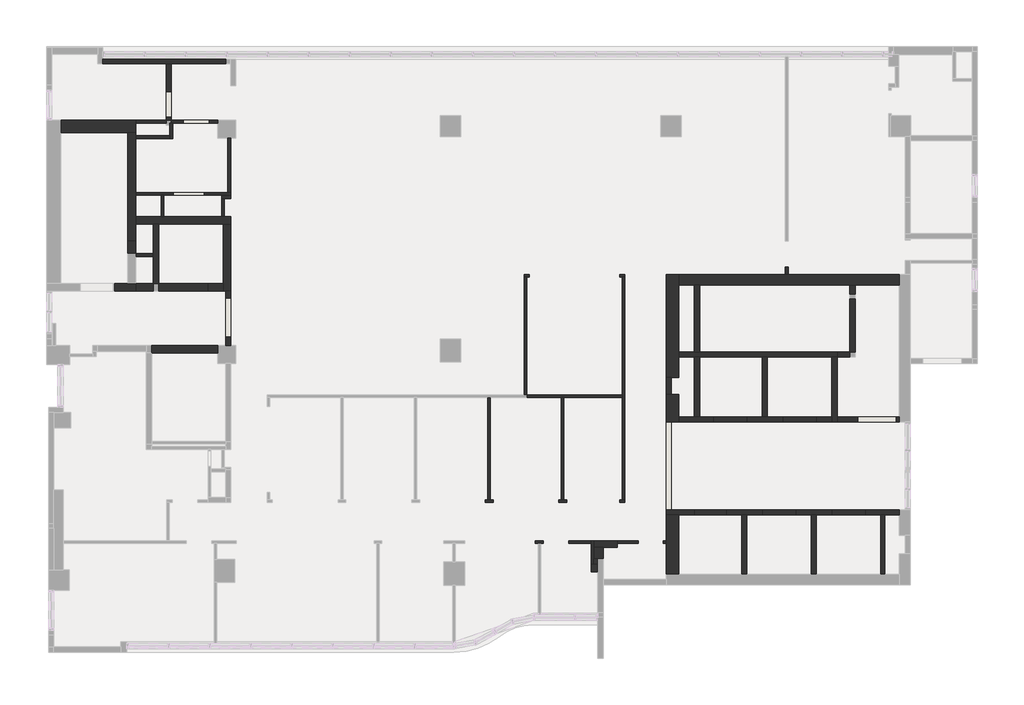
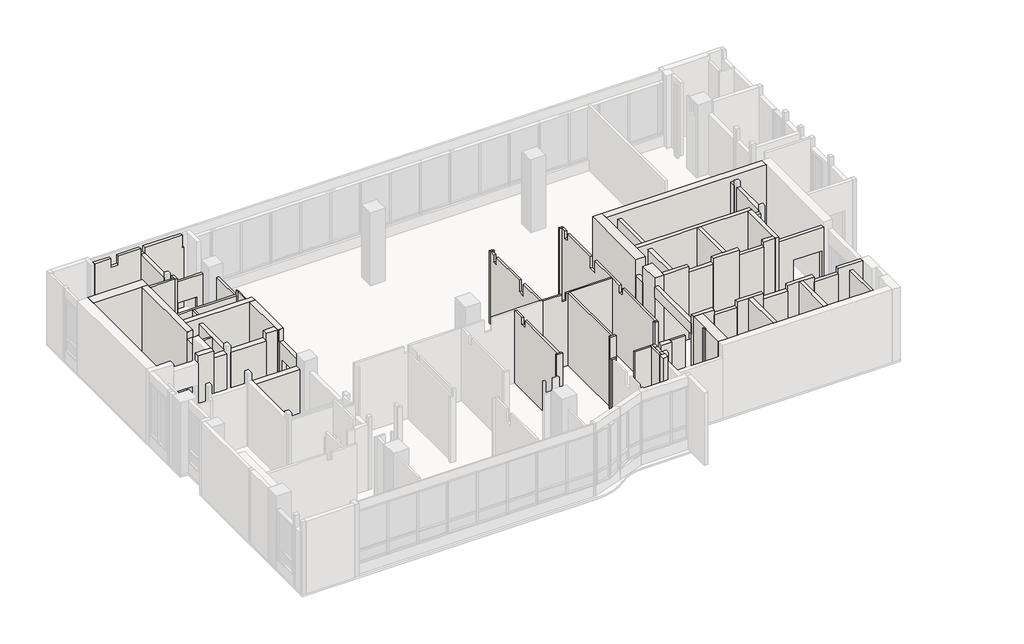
# One storey, part 3 of 5: 74 walls.
"""IFC4 building model written with IfcOpenShell, lengths in millimetres."""

from ifc_helpers import new_model, si_unit, frame, origin, place, context, project, spatial, polyline, outline, extrude, faceted_brep, element, save

model = new_model("IFC4")

# Units and contexts
model_context = context("Model", 3, world=origin())
ifc_project = project(units=[si_unit("LENGTHUNIT", "METRE", prefix="MILLI")], contexts=[model_context])

# Site, building, storey
site = spatial("IfcSite", under=ifc_project)
building = spatial("IfcBuilding", under=site)
storey = spatial("IfcBuildingStorey", under=building, Name="20F(S)", Elevation=-100.0)

# Walls
placement = place(None, origin())
element("IfcWall", 1, ObjectType="承重墙-500", at=placement, inside=storey, context=model_context, shape_type="Brep", body=[
    faceted_brep([(-139.9999991, 17139.9923452, -100.0), (2460.0000009, 17139.9923452, -100.0), (2760.0000009, 17139.9923452, -100.0), (2760.0000009, 17139.9923452, 4000.0), (2460.0000009, 17139.9923452, 4000.0), (-139.9999991, 17139.9923452, 4000.0), (-139.9999991, 17639.9923452, -100.0), (-139.9999991, 17639.9923452, 4000.0), (2760.0000009, 17639.9923452, 4000.0), (2760.0000009, 17639.9923452, -100.0)], [[[0, 1, 2, 3, 4, 5]], [[6, 7, 8, 9]], [[2, 1, 0, 6, 9]], [[5, 4, 3, 8, 7]], [[0, 5, 7, 6]], [[3, 2, 9, 8]]]),
])
element("IfcWall", 2, ObjectType="承重墙-300", at=placement, inside=storey, context=model_context, shape_type="Brep", body=[
    faceted_brep([(2460.0000009, 17139.9923452, -100.0), (2460.0000009, 12950.0000404, -100.0), (2460.0000009, 12950.0000404, 4000.0), (2460.0000009, 17139.9923452, 4000.0), (2760.0000009, 17139.9923452, -100.0), (2760.0000009, 17139.9923452, 4000.0), (2760.0000009, 13900.0000401, 4000.0), (2760.0000009, 13600.0000401, 4000.0), (2760.0000009, 12950.0000404, 4000.0), (2760.0000009, 12950.0000404, -100.0), (2760.0000009, 13600.0000401, -100.0), (2760.0000009, 13900.0000401, -100.0), (2760.0000009, 14719.99237, -100.0), (2760.0000009, 14819.99237, -100.0)], [[[0, 1, 2, 3]], [[4, 5, 6, 7, 8, 9, 10, 11, 12, 13]], [[1, 0, 4, 13, 12, 11, 10, 9]], [[2, 1, 9, 8]], [[3, 2, 8, 7, 6, 5]], [[0, 3, 5, 4]]]),
])
element("IfcWall", 3, ObjectType="承重墙-500", at=placement, inside=storey, context=model_context, shape_type="SweptSolid", body=[
    extrude(outline(polyline([(23820.0000001, 2319.99237), (23820.0000001, 19.9923316), (23320.0000001, 19.9923316), (23320.0000001, 2319.99237), (23820.0000001, 2319.99237)])), frame((0.0, 0.0, -100.0), z_axis=(0.0, 0.0, 1.0), x_axis=(1.0, 0.0, 0.0)), (0.0, 0.0, 1.0), 4100.0),
])
element("IfcWall", 4, ObjectType="承重墙-500", at=placement, inside=storey, context=model_context, shape_type="Brep", body=[
    faceted_brep([(23320.0000001, 11639.99237, -100.0), (23320.0000001, 7649.99237, -100.0), (23320.0000001, 7649.99237, 4000.0), (23320.0000001, 11639.99237, 4000.0), (23820.0000001, 11639.99237, -100.0), (23820.0000001, 11639.99237, 4000.0), (23820.0000001, 11239.99237, 4000.0), (23820.0000001, 8639.99237, 4000.0), (23820.0000001, 8439.99237, 4000.0), (23820.0000001, 7649.99237, 4000.0), (23820.0000001, 7649.99237, -100.0), (23820.0000001, 8439.99237, -100.0), (23820.0000001, 8639.99237, -100.0), (23820.0000001, 11239.99237, -100.0), (23520.0000001, 7649.99237, -100.0)], [[[0, 1, 2, 3]], [[4, 5, 6, 7, 8, 9, 10, 11, 12, 13]], [[1, 0, 4, 13, 12, 11, 10, 14]], [[2, 1, 14, 10, 9]], [[3, 2, 9, 8, 7, 6, 5]], [[0, 3, 5, 4]]]),
])
element("IfcWall", 5, ObjectType="承重墙-500", at=placement, inside=storey, context=model_context, shape_type="Brep", body=[
    faceted_brep([(23320.0000001, 6999.99237, -100.0), (23320.0000001, 5919.99237, -100.0), (23320.0000001, 5919.99237, 0.0), (23320.0000001, 5919.99237, 2900.0), (23320.0000001, 5919.99237, 3500.0), (23320.0000001, 5919.99237, 4000.0), (23320.0000001, 6999.99237, 4000.0), (23820.0000001, 6999.99237, -100.0), (23820.0000001, 6999.99237, 4000.0), (23820.0000001, 6119.99237, 4000.0), (23820.0000001, 5919.99237, 4000.0), (23820.0000001, 5919.99237, -100.0), (23820.0000001, 6119.99237, -100.0), (23520.0000001, 6999.99237, -100.0), (23520.0000001, 5919.99237, -100.0)], [[[0, 1, 2, 3, 4, 5, 6]], [[7, 8, 9, 10, 11, 12]], [[1, 0, 13, 7, 12, 11, 14]], [[6, 5, 10, 9, 8]], [[0, 6, 8, 7, 13]], [[1, 14, 11, 10, 5, 4, 3, 2]]]),
])
element("IfcWall", 6, ObjectType="承重墙-300", at=placement, inside=storey, context=model_context, shape_type="Brep", body=[
    faceted_brep([(2760.0000009, 13600.0000401, -100.0), (3450.0, 13599.998606, -100.0), (3650.0, 13599.9981903, -100.0), (6150.0000105, 13599.9929943, -100.0), (6450.0000105, 13599.9923707, -100.0), (6450.0000105, 13599.9923707, 4000.0), (6150.0000105, 13599.9929943, 4000.0), (2760.0000009, 13600.0000401, 4000.0), (2760.0000009, 13900.0000401, -100.0), (2760.0000009, 13900.0000401, 4000.0), (6100.0000105, 13899.9930982, 4000.0), (6149.9993113, 13899.9929943, 4000.0), (6450.0000105, 13899.9923707, 4000.0), (6450.0000105, 13899.9923707, -100.0), (6200.0000105, 13899.9928903, -100.0), (6100.0000105, 13899.9930982, -100.0), (3849.9999998, 13899.9977746, -100.0), (3749.9999998, 13899.9979825, -100.0)], [[[0, 1, 2, 3, 4, 5, 6, 7]], [[8, 9, 10, 11, 12, 13, 14, 15, 16, 17]], [[4, 3, 2, 1, 0, 8, 17, 16, 15, 14, 13]], [[7, 6, 5, 12, 11, 10, 9]], [[5, 4, 13, 12]], [[0, 7, 9, 8]]]),
])
element("IfcWall", 7, ObjectType="承重墙-300", at=placement, inside=storey, context=model_context, shape_type="Brep", body=[
    faceted_brep([(6150.0000105, 13599.9929943, -100.0), (6150.0000105, 11299.9923707, -100.0), (6150.0000105, 10999.9923707, -100.0), (6150.0000105, 10999.9923707, 4000.0), (6150.0000105, 11299.9923707, 4000.0), (6150.0000105, 13599.9929943, 4000.0), (6450.0000105, 13599.9923707, -100.0), (6450.0000105, 13599.9923707, 4000.0), (6450.0000105, 10999.9923707, 4000.0), (6450.0000105, 10999.9923707, -100.0), (6250.0000006, 10999.9923707, -100.0), (6250.0000006, 10999.9923707, 4000.0)], [[[0, 1, 2, 3, 4, 5]], [[6, 7, 8, 9]], [[2, 1, 0, 6, 9, 10]], [[5, 4, 3, 11, 8, 7]], [[0, 5, 7, 6]], [[3, 2, 10, 9, 8, 11]]]),
])
element("IfcWall", 8, ObjectType="承重墙-300", at=placement, inside=storey, context=model_context, shape_type="SweptSolid", body=[
    extrude(outline(polyline([(5550.0000001, 11299.9923707), (6150.0000105, 11299.9923707), (6150.0000105, 10999.9923707), (5550.0000001, 10999.9923707), (5550.0000001, 11299.9923707)])), frame((0.0, 0.0, -100.0), z_axis=(0.0, 0.0, 1.0), x_axis=(1.0, 0.0, 0.0)), (0.0, 0.0, 1.0), 4100.0),
])
element("IfcWall", 9, ObjectType="承重墙-300", at=placement, inside=storey, context=model_context, shape_type="Brep", body=[
    faceted_brep([(2760.0000009, 11299.9923707, -100.0), (2460.0000009, 11299.9923707, -100.0), (1930.0000011, 11299.9923707, -100.0), (1930.0000011, 11299.9923707, 4000.0), (2460.0000009, 11299.9923707, 4000.0), (2760.0000009, 11299.9923707, 4000.0), (2760.0000009, 10999.9923707, -100.0), (2760.0000009, 10999.9923707, 4000.0), (1930.0000011, 10999.9923707, 4000.0), (1930.0000011, 10999.9923707, -100.0)], [[[0, 1, 2, 3, 4, 5]], [[6, 7, 8, 9]], [[2, 1, 0, 6, 9]], [[3, 2, 9, 8]], [[5, 4, 3, 8, 7]], [[0, 5, 7, 6]]]),
])
element("IfcWall", 10, ObjectType="承重墙-200", at=placement, inside=storey, context=model_context, shape_type="Brep", body=[
    faceted_brep([(23820.0000001, 8439.99237, -100.0), (24419.9999987, 8439.99237, -100.0), (24619.9999987, 8439.99237, -100.0), (27049.9999987, 8439.99237, -100.0), (27249.9999987, 8439.99237, -100.0), (29749.9999987, 8439.99237, -100.0), (29949.9999987, 8439.99237, -100.0), (29949.9999987, 8439.99237, 4000.0), (29749.9999987, 8439.99237, 4000.0), (27249.9999987, 8439.99237, 4000.0), (27049.9999987, 8439.99237, 4000.0), (23820.0000001, 8439.99237, 4000.0), (23820.0000001, 8639.99237, -100.0), (23820.0000001, 8639.99237, 4000.0), (29949.9999987, 8639.99237, 4000.0), (29949.9999987, 8639.99237, -100.0), (24619.9999983, 8639.99237, -100.0), (24419.9999983, 8639.99237, -100.0)], [[[0, 1, 2, 3, 4, 5, 6, 7, 8, 9, 10, 11]], [[12, 13, 14, 15, 16, 17]], [[6, 5, 4, 3, 2, 1, 0, 12, 17, 16, 15]], [[11, 10, 9, 8, 7, 14, 13]], [[0, 11, 13, 12]], [[7, 6, 15, 14]]]),
])
element("IfcWall", 11, ObjectType="承重墙-200", at=placement, inside=storey, context=model_context, shape_type="Brep", body=[
    faceted_brep([(29749.9999987, 8439.99237, -100.0), (29749.9999987, 6119.99237, -100.0), (29749.9999987, 5919.99237, -100.0), (29749.9999987, 5919.99237, 4000.0), (29749.9999987, 6119.99237, 4000.0), (29749.9999987, 8439.99237, 4000.0), (29949.9999987, 8439.99237, -100.0), (29949.9999987, 8439.99237, 4000.0), (29949.9999987, 5919.99237, 4000.0), (29949.9999987, 5919.99237, -100.0)], [[[0, 1, 2, 3, 4, 5]], [[6, 7, 8, 9]], [[2, 1, 0, 6, 9]], [[5, 4, 3, 8, 7]], [[3, 2, 9, 8]], [[0, 5, 7, 6]]]),
])
element("IfcWall", 12, ObjectType="承重墙-200", at=placement, inside=storey, context=model_context, shape_type="SweptSolid", body=[
    extrude(outline(polyline([(29149.9999994, 6119.99237), (29749.9999987, 6119.99237), (29749.9999987, 5919.99237), (29149.9999994, 5919.99237), (29149.9999994, 6119.99237)])), frame((0.0, 0.0, -100.0), z_axis=(0.0, 0.0, 1.0), x_axis=(1.0, 0.0, 0.0)), (0.0, 0.0, 1.0), 4100.0),
])
element("IfcWall", 13, ObjectType="承重墙-200", at=placement, inside=storey, context=model_context, shape_type="Brep", body=[
    faceted_brep([(27849.9999994, 6119.99237, -100.0), (27249.9999987, 6119.99237, -100.0), (27049.9999987, 6119.99237, -100.0), (26449.9999987, 6119.99237, -100.0), (26449.9999987, 6119.99237, 4000.0), (27049.9999987, 6119.99237, 4000.0), (27249.9999987, 6119.99237, 4000.0), (27849.9999994, 6119.99237, 4000.0), (27849.9999994, 5919.99237, -100.0), (27849.9999994, 5919.99237, 4000.0), (26449.9999987, 5919.99237, 4000.0), (26449.9999987, 5919.99237, -100.0)], [[[0, 1, 2, 3, 4, 5, 6, 7]], [[8, 9, 10, 11]], [[3, 2, 1, 0, 8, 11]], [[4, 3, 11, 10]], [[7, 6, 5, 4, 10, 9]], [[0, 7, 9, 8]]]),
])
element("IfcWall", 14, ObjectType="承重墙-200", at=placement, inside=storey, context=model_context, shape_type="Brep", body=[
    faceted_brep([(25149.9999987, 6119.99237, -100.0), (24619.9999987, 6119.99237, -100.0), (24419.9999987, 6119.99237, -100.0), (23820.0000001, 6119.99237, -100.0), (23820.0000001, 6119.99237, 4000.0), (25149.9999987, 6119.99237, 4000.0), (25149.9999987, 5919.99237, -100.0), (25149.9999987, 5919.99237, 4000.0), (23820.0000001, 5919.99237, 4000.0), (23820.0000001, 5919.99237, -100.0)], [[[0, 1, 2, 3, 4, 5]], [[6, 7, 8, 9]], [[3, 2, 1, 0, 6, 9]], [[5, 4, 8, 7]], [[0, 5, 7, 6]], [[3, 9, 8, 4]]]),
])
element("IfcWall", 15, ObjectType="承重墙-200", at=placement, inside=storey, context=model_context, shape_type="SweptSolid", body=[
    extrude(outline(polyline([(27249.9999987, 8439.99237), (27249.9999987, 6119.99237), (27049.9999987, 6119.99237), (27049.9999987, 8439.99237), (27249.9999987, 8439.99237)])), frame((0.0, 0.0, -100.0), z_axis=(0.0, 0.0, 1.0), x_axis=(1.0, 0.0, 0.0)), (0.0, 0.0, 1.0), 4100.0),
])
element("IfcWall", 16, ObjectType="承重墙-200", at=placement, inside=storey, context=model_context, shape_type="Brep", body=[
    faceted_brep([(23320.0000001, 2319.99237, 4000.0), (23320.0000001, 2319.99237, -100.0), (23820.0000001, 2319.99237, -100.0), (24419.9999994, 2319.99237, -100.0), (24419.9999994, 2319.99237, 4000.0), (23820.0000001, 2319.99237, 4000.0), (23320.0000001, 2519.99237, -100.0), (23320.0000001, 2519.99237, 0.0), (23320.0000001, 2519.99237, 2900.0), (23320.0000001, 2519.99237, 3500.0), (23320.0000001, 2519.99237, 4000.0), (24419.9999994, 2519.99237, 4000.0), (24419.9999994, 2519.99237, -100.0), (23520.0000001, 2519.99237, -100.0)], [[[0, 1, 2, 3, 4, 5]], [[6, 7, 8, 9, 10, 11, 12, 13]], [[3, 2, 1, 6, 13, 12]], [[4, 3, 12, 11]], [[0, 5, 4, 11, 10]], [[0, 10, 9, 8, 7, 6, 1]]]),
])
element("IfcWall", 17, ObjectType="承重墙-200", at=placement, inside=storey, context=model_context, shape_type="Brep", body=[
    faceted_brep([(25649.9999994, 2319.99237, -100.0), (26249.9999987, 2319.99237, -100.0), (26449.9999987, 2319.99237, -100.0), (27049.9999993, 2319.99237, -100.0), (27049.9999993, 2319.99237, 4000.0), (26449.9999987, 2319.99237, 4000.0), (26249.9999987, 2319.99237, 4000.0), (25649.9999994, 2319.99237, 4000.0), (25649.9999994, 2519.99237, -100.0), (25649.9999994, 2519.99237, 4000.0), (27049.9999993, 2519.99237, 4000.0), (27049.9999993, 2519.99237, -100.0)], [[[0, 1, 2, 3, 4, 5, 6, 7]], [[8, 9, 10, 11]], [[3, 2, 1, 0, 8, 11]], [[4, 3, 11, 10]], [[7, 6, 5, 4, 10, 9]], [[0, 7, 9, 8]]]),
])
element("IfcWall", 18, ObjectType="承重墙-200", at=placement, inside=storey, context=model_context, shape_type="Brep", body=[
    faceted_brep([(28349.9999993, 2319.99237, -100.0), (28949.9999987, 2319.99237, -100.0), (29149.9999987, 2319.99237, -100.0), (29749.9999995, 2319.99237, -100.0), (29749.9999995, 2319.99237, 4000.0), (29149.9999987, 2319.99237, 4000.0), (28949.9999987, 2319.99237, 4000.0), (28349.9999993, 2319.99237, 4000.0), (28349.9999993, 2519.99237, -100.0), (28349.9999993, 2519.99237, 4000.0), (29749.9999995, 2519.99237, 4000.0), (29749.9999995, 2519.99237, -100.0)], [[[0, 1, 2, 3, 4, 5, 6, 7]], [[8, 9, 10, 11]], [[3, 2, 1, 0, 8, 11]], [[4, 3, 11, 10]], [[7, 6, 5, 4, 10, 9]], [[0, 7, 9, 8]]]),
])
element("IfcWall", 19, ObjectType="承重墙-200", at=placement, inside=storey, context=model_context, shape_type="Brep", body=[
    faceted_brep([(31049.9999995, 2319.99237, -100.0), (31649.9999987, 2319.99237, -100.0), (31799.9999987, 2319.99237, -100.0), (32350.0000031, 2319.99237, -100.0), (32350.0000031, 2319.99237, 4000.0), (31049.9999995, 2319.99237, 4000.0), (31049.9999995, 2519.99237, -100.0), (31049.9999995, 2519.99237, 4000.0), (32350.0000031, 2519.99237, 4000.0), (32350.0000031, 2519.99237, -100.0)], [[[0, 1, 2, 3, 4, 5]], [[6, 7, 8, 9]], [[3, 2, 1, 0, 6, 9]], [[5, 4, 8, 7]], [[0, 5, 7, 6]], [[4, 3, 9, 8]]]),
])
element("IfcWall", 20, ObjectType="承重墙-200", at=placement, inside=storey, context=model_context, shape_type="SweptSolid", body=[
    extrude(outline(polyline([(28949.9999987, 19.9923316), (28949.9999987, 2319.99237), (29149.9999987, 2319.99237), (29149.9999987, 19.9923316), (28949.9999987, 19.9923316)])), frame((0.0, 0.0, -100.0), z_axis=(0.0, 0.0, 1.0), x_axis=(1.0, 0.0, 0.0)), (0.0, 0.0, 1.0), 4100.0),
])
element("IfcWall", 21, ObjectType="承重墙-200", at=placement, inside=storey, context=model_context, shape_type="SweptSolid", body=[
    extrude(outline(polyline([(26249.9999987, 19.9923316), (26249.9999987, 2319.99237), (26449.9999987, 2319.99237), (26449.9999987, 19.9923316), (26249.9999987, 19.9923316)])), frame((0.0, 0.0, -100.0), z_axis=(0.0, 0.0, 1.0), x_axis=(1.0, 0.0, 0.0)), (0.0, 0.0, 1.0), 4100.0),
])
element("IfcWall", 22, ObjectType="承重墙-400", at=placement, inside=storey, context=model_context, shape_type="Brep", body=[
    faceted_brep([(23820.0000001, 11239.99237, -100.0), (24419.9999983, 11239.99237, -100.0), (24619.9999983, 11239.99237, -100.0), (30449.9999987, 11239.99237, -100.0), (30649.9999987, 11239.99237, -100.0), (32350.0000015, 11239.99237, -100.0), (32350.0000015, 11239.99237, 4000.0), (23820.0000001, 11239.99237, 4000.0), (23820.0000001, 11639.99237, -100.0), (23820.0000001, 11639.99237, 4000.0), (32350.0000015, 11639.99237, 4000.0), (32350.0000015, 11639.99237, -100.0)], [[[0, 1, 2, 3, 4, 5, 6, 7]], [[8, 9, 10, 11]], [[5, 4, 3, 2, 1, 0, 8, 11]], [[7, 6, 10, 9]], [[0, 7, 9, 8]], [[6, 5, 11, 10]]]),
])
element("IfcWall", 23, ObjectType="非承重墙-200", at=placement, inside=storey, context=model_context, shape_type="SweptSolid", body=[
    extrude(outline(polyline([(10999.9923707, -100.0), (8900.0110062, -100.0), (8900.0110062, 3300.0), (10999.5055223, 3300.0), (10999.5055223, 4000.0), (10999.9923707, 4000.0), (10999.9923707, -100.0)]), holes=[polyline([(10725.0076698, 0.0), (10725.0076698, 2400.0), (9225.0076698, 2400.0), (9225.0076698, 0.0), (10725.0076698, 0.0)])]), frame((6250.0000006, 0.0, 0.0), z_axis=(1.0, 0.0, 0.0), x_axis=(0.0, 1.0, 0.0)), (0.0, 0.0, 1.0), 200.0),
])
element("IfcWall", 24, ObjectType="非承重墙-200", at=placement, inside=storey, context=model_context, shape_type="Brep", body=[
    faceted_brep([(3450.0, 13599.998606, -100.0), (3450.0, 12449.9994242, -100.0), (3450.0, 12349.9994242, -100.0), (3450.0, 11299.9923705, -100.0), (3450.0, 11299.9923705, 3700.0), (3450.0, 12349.9994242, 3700.0), (3450.0, 12449.9994242, 3700.0), (3450.0, 13599.998606, 3700.0), (3650.0, 11299.9923705, -100.0), (3650.0, 13599.9981903, -100.0), (3650.0, 13599.9981903, 3700.0), (3650.0, 11299.9923705, 3700.0)], [[[0, 1, 2, 3, 4, 5, 6, 7]], [[8, 9, 10, 11]], [[3, 2, 1, 0, 9, 8]], [[3, 8, 11, 4]], [[9, 0, 7, 10]], [[7, 6, 5, 4, 11, 10]]]),
])
element("IfcWall", 25, ObjectType="非承重墙-300", at=placement, inside=storey, context=model_context, shape_type="SweptSolid", body=[
    extrude(outline(polyline([(3380.000001, 8900.0110062), (5950.0000013, 8900.0110062), (5950.0000013, 8600.0110062), (3380.000001, 8600.0110062), (3380.000001, 8900.0110062)])), frame((0.0, 0.0, -100.0), z_axis=(0.0, 0.0, 1.0), x_axis=(1.0, 0.0, 0.0)), (0.0, 0.0, 1.0), 3400.0),
])
element("IfcWall", 26, ObjectType="非承重墙-300", at=placement, inside=storey, context=model_context, shape_type="SweptSolid", body=[
    extrude(outline(polyline([(3650.0, 11299.9923707), (5550.0000001, 11299.9923707), (5550.0000001, 10999.9923707), (3650.0, 10999.9923707), (3650.0, 11299.9923707)])), frame((0.0, 0.0, -100.0), z_axis=(0.0, 0.0, 1.0), x_axis=(1.0, 0.0, 0.0)), (0.0, 0.0, 1.0), 3700.0),
])
element("IfcWall", 27, ObjectType="非承重墙-300", at=placement, inside=storey, context=model_context, shape_type="SweptSolid", body=[
    extrude(outline(polyline([(2759.9555947, 11299.9923707), (3450.0000003, 11299.9923707), (3450.0000003, 10999.9923707), (2759.9555947, 10999.9923707), (2759.9555947, 11299.9923707)])), frame((0.0, 0.0, -100.0), z_axis=(0.0, 0.0, 1.0), x_axis=(1.0, 0.0, 0.0)), (0.0, 0.0, 1.0), 3700.0),
])
element("IfcWall", 28, ObjectType="非承重墙-100", at=placement, inside=storey, context=model_context, shape_type="Brep", body=[
    faceted_brep([(2760.0000009, 14719.99237, -100.0), (3749.9999998, 14719.99237, -100.0), (3849.9999998, 14719.99237, -100.0), (6450.0000094, 14719.99237, -100.0), (6450.0000094, 14719.99237, 3300.0), (6149.9993113, 14719.99237, 3300.0), (6149.9993113, 14719.99237, 3700.0), (3849.9999998, 14719.99237, 3700.0), (3749.9999998, 14719.99237, 3700.0), (2760.0000009, 14719.99237, 3700.0), (5430.0000009, 14719.99237, 2400.0), (5430.0000009, 14719.99237, 0.0), (4230.0000009, 14719.99237, 0.0), (4230.0000009, 14719.99237, 2400.0), (6450.0000094, 14819.99237, -100.0), (6330.0000094, 14819.99237, -100.0), (2760.0000009, 14819.99237, -100.0), (2760.0000009, 14819.99237, 3700.0), (6149.9993113, 14819.99237, 3700.0), (6149.9993113, 14819.99237, 3300.0), (6330.0000094, 14819.99237, 3300.0), (6450.0000094, 14819.99237, 3300.0), (5430.0000009, 14819.99237, 0.0), (5430.0000009, 14819.99237, 2400.0), (4230.0000009, 14819.99237, 2400.0), (4230.0000009, 14819.99237, 0.0)], [[[0, 1, 2, 3, 4, 5, 6, 7, 8, 9], [10, 11, 12, 13]], [[14, 15, 16, 17, 18, 19, 20, 21], [22, 23, 24, 25]], [[3, 2, 1, 0, 16, 15, 14]], [[17, 9, 8, 7, 6, 18]], [[3, 14, 21, 4]], [[5, 19, 18, 6]], [[19, 5, 4, 21, 20]], [[0, 9, 17, 16]], [[23, 22, 11, 10]], [[24, 23, 10, 13]], [[25, 24, 13, 12]], [[22, 25, 12, 11]]]),
])
element("IfcWall", 29, ObjectType="非承重墙-100", at=placement, inside=storey, context=model_context, shape_type="SweptSolid", body=[
    extrude(outline(polyline([(3749.9999998, 13899.9979825), (3749.9999998, 14719.99237), (3849.9999998, 14719.99237), (3849.9999998, 13899.9977746), (3749.9999998, 13899.9979825)])), frame((0.0, 0.0, -100.0), z_axis=(0.0, 0.0, 1.0), x_axis=(1.0, 0.0, 0.0)), (0.0, 0.0, 1.0), 3800.0),
])
element("IfcWall", 30, ObjectType="非承重墙-120", at=placement, inside=storey, context=model_context, shape_type="SweptSolid", body=[
    extrude(outline(polyline([(3950.0000009, 17519.9923701), (2760.0000009, 17519.9923701), (2760.0000009, 17639.9923701), (3950.0000009, 17639.9923701), (3950.0000009, 17519.9923701)])), frame((0.0, 0.0, -100.0), z_axis=(0.0, 0.0, 1.0), x_axis=(1.0, 0.0, 0.0)), (0.0, 0.0, 1.0), 3400.0),
])
element("IfcWall", 31, ObjectType="非承重墙-120", at=placement, inside=storey, context=model_context, shape_type="SweptSolid", body=[
    extrude(outline(polyline([(-100.0, 4150.0000009), (-100.0, 5950.0), (3300.0, 5950.0), (3300.0, 4150.0000009), (-100.0, 4150.0000009)]), holes=[polyline([(0.0, 5610.0297539), (0.0, 4610.0297539), (2100.0, 4610.0297539), (2100.0, 5610.0297539), (0.0, 5610.0297539)])]), frame((0.0, 17519.9923701, 0.0), z_axis=(0.0, 1.0, 0.0), x_axis=(0.0, 0.0, 1.0)), (0.0, 0.0, 1.0), 120.0),
])
element("IfcWall", 32, ObjectType="非承重墙-170", at=placement, inside=storey, context=model_context, shape_type="Brep", body=[
    faceted_brep([(1490.0000009, 19819.9923697, -100.0), (3950.0000009, 19819.9923697, -100.0), (4150.0000009, 19819.9923697, -100.0), (6250.0000008, 19819.9923697, -100.0), (6250.0000008, 19819.9923697, 3300.0), (6149.9993113, 19819.9923697, 3300.0), (6149.9993113, 19819.9923697, 4000.0), (4150.0000009, 19819.9923697, 4000.0), (4150.0000009, 19819.9923697, 3700.0), (3950.0000009, 19819.9923697, 3700.0), (3950.0000009, 19819.9923697, 4000.0), (2760.0000009, 19819.9923697, 4000.0), (2760.0000009, 19819.9923697, 3500.0), (2360.0000009, 19819.9923697, 3500.0), (2360.0000009, 19819.9923697, 4000.0), (1490.0000009, 19819.9923697, 4000.0), (6250.0000008, 19989.9923697, -100.0), (1490.0000009, 19989.9923697, -100.0), (1490.0000009, 19989.9923697, 4000.0), (2360.0000009, 19989.9923697, 4000.0), (2360.0000009, 19989.9923697, 3500.0), (2760.0000009, 19989.9923697, 3500.0), (2760.0000009, 19989.9923697, 4000.0), (3950.0000009, 19989.9923697, 4000.0), (3950.0000009, 19989.9923697, 3700.0), (4150.0000009, 19989.9923697, 3700.0), (4150.0000009, 19989.9923697, 4000.0), (6149.9993113, 19989.9923697, 4000.0), (6149.9993113, 19989.9923697, 3300.0), (6250.0000008, 19989.9923697, 3300.0)], [[[0, 1, 2, 3, 4, 5, 6, 7, 8, 9, 10, 11, 12, 13, 14, 15]], [[16, 17, 18, 19, 20, 21, 22, 23, 24, 25, 26, 27, 28, 29]], [[3, 2, 1, 0, 17, 16]], [[3, 16, 29, 4]], [[18, 15, 14, 19]], [[22, 11, 10, 23]], [[26, 7, 6, 27]], [[0, 15, 18, 17]], [[21, 12, 11, 22]], [[12, 21, 20, 13]], [[13, 20, 19, 14]], [[9, 24, 23, 10]], [[24, 9, 8, 25]], [[25, 8, 7, 26]], [[5, 28, 27, 6]], [[28, 5, 4, 29]]]),
])
element("IfcWall", 33, ObjectType="非承重墙-200", at=placement, inside=storey, context=model_context, shape_type="SweptSolid", body=[
    extrude(outline(polyline([(19819.9923697, -100.0), (17639.9923701, -100.0), (17639.9923701, 3700.0), (19819.9923697, 3700.0), (19819.9923697, -100.0)]), holes=[polyline([(17739.9923701, 0.0), (18739.9923701, 0.0), (18739.9923701, 2100.0), (17739.9923701, 2100.0), (17739.9923701, 0.0)])]), frame((3950.0000009, 0.0, 0.0), z_axis=(1.0, 0.0, 0.0), x_axis=(0.0, 1.0, 0.0)), (0.0, 0.0, 1.0), 200.0),
])
element("IfcWall", 34, ObjectType="非承重墙-120", at=placement, inside=storey, context=model_context, shape_type="SweptSolid", body=[
    extrude(outline(polyline([(6330.0000094, 14819.99237), (6330.0000094, 16939.9923697), (6450.0000094, 16939.9923697), (6450.0000094, 14819.99237), (6330.0000094, 14819.99237)])), frame((0.0, 0.0, -100.0), z_axis=(0.0, 0.0, 1.0), x_axis=(1.0, 0.0, 0.0)), (0.0, 0.0, 1.0), 3400.0),
])
element("IfcWall", 35, ObjectType="非承重墙-100", at=placement, inside=storey, context=model_context, shape_type="SweptSolid", body=[
    extrude(outline(polyline([(3450.0, 12349.9994242), (2760.0000009, 12349.9994242), (2760.0000009, 12449.9994242), (3450.0, 12449.9994242), (3450.0, 12349.9994242)])), frame((0.0, 0.0, -100.0), z_axis=(0.0, 0.0, 1.0), x_axis=(1.0, 0.0, 0.0)), (0.0, 0.0, 1.0), 3800.0),
])
element("IfcWall", 36, ObjectType="非承重墙-200", at=placement, inside=storey, context=model_context, shape_type="SweptSolid", body=[
    extrude(outline(polyline([(20520.0000001, 619.9847014), (20680.000002, 619.9847014), (20680.000002, 419.9847014), (20520.0000001, 419.9847014), (20520.0000001, 619.9847014)])), frame((0.0, 0.0, -100.0), z_axis=(0.0, 0.0, 1.0), x_axis=(1.0, 0.0, 0.0)), (0.0, 0.0, 1.0), 4100.0),
])
element("IfcWall", 37, ObjectType="非承重墙-200", at=placement, inside=storey, context=model_context, shape_type="SweptSolid", body=[
    extrude(outline(polyline([(-100.0, 29949.9999987), (-100.0, 32350.0000015), (3700.0, 32350.0000015), (3700.0, 29949.9999987), (-100.0, 29949.9999987)]), holes=[polyline([(0.0, 32250.0000015), (0.0, 30750.0000015), (2400.0, 30750.0000015), (2400.0, 32250.0000015), (0.0, 32250.0000015)])]), frame((0.0, 5919.99237, 0.0), z_axis=(0.0, 1.0, 0.0), x_axis=(0.0, 0.0, 1.0)), (0.0, 0.0, 1.0), 200.0),
])
element("IfcWall", 38, ObjectType="非承重墙-200", at=placement, inside=storey, context=model_context, shape_type="SweptSolid", body=[
    extrude(outline(polyline([(29949.9999987, 8639.99237), (30449.9999987, 8639.99237), (30449.9999987, 8439.99237), (29949.9999987, 8439.99237), (29949.9999987, 8639.99237)])), frame((0.0, 0.0, -100.0), z_axis=(0.0, 0.0, 1.0), x_axis=(1.0, 0.0, 0.0)), (0.0, 0.0, 1.0), 3700.0),
])
element("IfcWall", 39, ObjectType="非承重墙-200", at=placement, inside=storey, context=model_context, shape_type="SweptSolid", body=[
    extrude(outline(polyline([(30649.9999987, 10689.9923699), (30649.9999987, 8639.99237), (30449.9999987, 8639.99237), (30449.9999987, 10689.9923699), (30649.9999987, 10689.9923699)])), frame((0.0, 0.0, -100.0), z_axis=(0.0, 0.0, 1.0), x_axis=(1.0, 0.0, 0.0)), (0.0, 0.0, 1.0), 3800.0),
])
element("IfcWall", 40, ObjectType="非承重墙-200", at=placement, inside=storey, context=model_context, shape_type="SweptSolid", body=[
    extrude(outline(polyline([(30449.9999987, 10889.9923699), (30449.9999987, 11239.99237), (30649.9999987, 11239.99237), (30649.9999987, 10889.9923699), (30449.9999987, 10889.9923699)])), frame((0.0, 0.0, -100.0), z_axis=(0.0, 0.0, 1.0), x_axis=(1.0, 0.0, 0.0)), (0.0, 0.0, 1.0), 3800.0),
])
element("IfcWall", 41, ObjectType="非承重墙-200", at=placement, inside=storey, context=model_context, shape_type="SweptSolid", body=[
    extrude(outline(polyline([(24419.9999983, 8639.99237), (24419.9999983, 11239.99237), (24619.9999983, 11239.99237), (24619.9999983, 8639.99237), (24419.9999983, 8639.99237)])), frame((0.0, 0.0, -100.0), z_axis=(0.0, 0.0, 1.0), x_axis=(1.0, 0.0, 0.0)), (0.0, 0.0, 1.0), 3800.0),
])
element("IfcWall", 42, ObjectType="非承重墙-200", at=placement, inside=storey, context=model_context, shape_type="SweptSolid", body=[
    extrude(outline(polyline([(24419.9999987, 6119.99237), (24419.9999987, 8439.99237), (24619.9999987, 8439.99237), (24619.9999987, 6119.99237), (24419.9999987, 6119.99237)])), frame((0.0, 0.0, -100.0), z_axis=(0.0, 0.0, 1.0), x_axis=(1.0, 0.0, 0.0)), (0.0, 0.0, 1.0), 3800.0),
])
element("IfcWall", 43, ObjectType="非承重墙-200", at=placement, inside=storey, context=model_context, shape_type="SweptSolid", body=[
    extrude(outline(polyline([(23320.0000001, 6999.99237), (23320.0000001, 7649.99237), (23520.0000001, 7649.99237), (23520.0000001, 6999.99237), (23320.0000001, 6999.99237)])), frame((0.0, 0.0, -100.0), z_axis=(0.0, 0.0, 1.0), x_axis=(1.0, 0.0, 0.0)), (0.0, 0.0, 1.0), 3200.0),
])
element("IfcWall", 44, ObjectType="非承重墙-150", at=placement, inside=storey, context=model_context, shape_type="SweptSolid", body=[
    extrude(outline(polyline([(31649.9999987, 19.9923316), (31649.9999987, 2319.99237), (31799.9999987, 2319.99237), (31799.9999987, 19.9923316), (31649.9999987, 19.9923316)])), frame((0.0, 0.0, -100.0), z_axis=(0.0, 0.0, 1.0), x_axis=(1.0, 0.0, 0.0)), (0.0, 0.0, 1.0), 3800.0),
])
element("IfcWall", 45, ObjectType="非承重墙-200", at=placement, inside=storey, context=model_context, shape_type="SweptSolid", body=[
    extrude(outline(polyline([(23320.0000001, 2519.99237), (23320.0000001, 5919.99237), (23520.0000001, 5919.99237), (23520.0000001, 2519.99237), (23320.0000001, 2519.99237)])), frame((0.0, 0.0, -100.0), z_axis=(0.0, 0.0, 1.0), x_axis=(1.0, 0.0, 0.0)), (0.0, 0.0, 1.0), 100.0),
    extrude(outline(polyline([(23320.0000001, 2519.99237), (23320.0000001, 5919.99237), (23520.0000001, 5919.99237), (23520.0000001, 2519.99237), (23320.0000001, 2519.99237)])), frame((0.0, 0.0, 2900.0), z_axis=(0.0, 0.0, 1.0), x_axis=(1.0, 0.0, 0.0)), (0.0, 0.0, 1.0), 600.0),
])
element("IfcWall", 46, ObjectType="非承重墙-120", at=placement, inside=storey, context=model_context, shape_type="Brep", body=[
    faceted_brep([(6450.0000105, 14719.992383, -100.0), (6100.0000105, 14719.992383, -100.0), (6100.0000105, 14719.992383, 4000.0), (6149.9993113, 14719.992383, 4000.0), (6149.9993113, 14719.992383, 3300.0), (6450.0000105, 14719.992383, 3300.0), (6100.0000105, 14599.992383, -100.0), (6200.0000105, 14599.992383, -100.0), (6450.0000105, 14599.992383, -100.0), (6450.0000105, 14599.992383, 3300.0), (6149.9993113, 14599.992383, 3300.0), (6149.9993113, 14599.992383, 4000.0), (6100.0000105, 14599.992383, 4000.0)], [[[0, 1, 2, 3, 4, 5]], [[6, 7, 8, 9, 10, 11, 12]], [[1, 0, 8, 7, 6]], [[2, 12, 11, 3]], [[8, 0, 5, 9]], [[2, 1, 6, 12]], [[10, 4, 3, 11]], [[4, 10, 9, 5]]]),
])
element("IfcWall", 47, ObjectType="非承重墙-100", at=placement, inside=storey, context=model_context, shape_type="Brep", body=[
    faceted_brep([(6100.0000105, 14599.992383, -100.0), (6100.0000105, 13899.9930982, -100.0), (6100.0000105, 13899.9930982, 4000.0), (6100.0000105, 14599.992383, 4000.0), (6200.0000105, 13899.9928903, -100.0), (6200.0000105, 14599.992383, -100.0), (6200.0000105, 14599.992383, 3300.0), (6200.0000105, 13899.9928903, 3300.0), (6149.9993113, 13899.9929943, 4000.0), (6149.9993113, 14599.992383, 4000.0), (6149.9993113, 14599.992383, 3300.0), (6149.9993111, 13899.9929943, 3300.0)], [[[0, 1, 2, 3]], [[4, 5, 6, 7]], [[1, 0, 5, 4]], [[3, 2, 8, 9]], [[0, 3, 9, 10, 6, 5]], [[2, 1, 4, 7, 11, 8]], [[11, 10, 9, 8]], [[10, 11, 7, 6]]]),
])
element("IfcWall", 48, ObjectType="非承重墙-200", at=placement, inside=storey, context=model_context, shape_type="SweptSolid", body=[
    extrude(outline(polyline([(26449.9999987, 5919.99237), (25149.9999987, 5919.99237), (25149.9999987, 6119.99237), (26449.9999987, 6119.99237), (26449.9999987, 5919.99237)])), frame((0.0, 0.0, -100.0), z_axis=(0.0, 0.0, 1.0), x_axis=(1.0, 0.0, 0.0)), (0.0, 0.0, 1.0), 3800.0),
])
element("IfcWall", 49, ObjectType="非承重墙-200", at=placement, inside=storey, context=model_context, shape_type="SweptSolid", body=[
    extrude(outline(polyline([(29149.9999994, 5919.99237), (27849.9999994, 5919.99237), (27849.9999994, 6119.99237), (29149.9999994, 6119.99237), (29149.9999994, 5919.99237)])), frame((0.0, 0.0, -100.0), z_axis=(0.0, 0.0, 1.0), x_axis=(1.0, 0.0, 0.0)), (0.0, 0.0, 1.0), 3800.0),
])
element("IfcWall", 50, ObjectType="非承重墙-200", at=placement, inside=storey, context=model_context, shape_type="SweptSolid", body=[
    extrude(outline(polyline([(25649.9999994, 2319.99237), (24419.9999994, 2319.99237), (24419.9999994, 2519.99237), (25649.9999994, 2519.99237), (25649.9999994, 2319.99237)])), frame((0.0, 0.0, -100.0), z_axis=(0.0, 0.0, 1.0), x_axis=(1.0, 0.0, 0.0)), (0.0, 0.0, 1.0), 3800.0),
])
element("IfcWall", 51, ObjectType="非承重墙-200", at=placement, inside=storey, context=model_context, shape_type="SweptSolid", body=[
    extrude(outline(polyline([(28349.9999993, 2319.99237), (27049.9999993, 2319.99237), (27049.9999993, 2519.99237), (28349.9999993, 2519.99237), (28349.9999993, 2319.99237)])), frame((0.0, 0.0, -100.0), z_axis=(0.0, 0.0, 1.0), x_axis=(1.0, 0.0, 0.0)), (0.0, 0.0, 1.0), 3800.0),
])
element("IfcWall", 52, ObjectType="非承重墙-200", at=placement, inside=storey, context=model_context, shape_type="SweptSolid", body=[
    extrude(outline(polyline([(31049.9999995, 2319.99237), (29749.9999995, 2319.99237), (29749.9999995, 2519.99237), (31049.9999995, 2519.99237), (31049.9999995, 2319.99237)])), frame((0.0, 0.0, -100.0), z_axis=(0.0, 0.0, 1.0), x_axis=(1.0, 0.0, 0.0)), (0.0, 0.0, 1.0), 3800.0),
])
element("IfcWall", 53, ObjectType="非承重墙-300", at=placement, inside=storey, context=model_context, shape_type="SweptSolid", body=[
    extrude(outline(polyline([(12950.0000404, -100.0), (12449.9994242, -100.0), (12449.9994242, 4000.0), (12450.5069463, 4000.0), (12450.5069463, 3600.0), (12949.5069463, 3600.0), (12949.5069463, 4000.0), (12950.0000404, 4000.0), (12950.0000404, -100.0)])), frame((2460.0000009, 0.0, 0.0), z_axis=(1.0, 0.0, 0.0), x_axis=(0.0, 1.0, 0.0)), (0.0, 0.0, 1.0), 300.0),
])
element("IfcWall", 54, ObjectType="砖墙-120", at=placement, inside=storey, context=model_context, shape_type="Brep", body=[
    faceted_brep([(4090.0000008, 17519.9923701, -100.0), (4090.0000008, 17029.9923037, -100.0), (4090.0000008, 16909.9923037, -100.0), (4090.0000008, 16909.9923037, 4000.0), (4090.0000008, 17029.9923037, 4000.0), (4090.0000008, 17239.9923682, 4000.0), (4090.0000008, 17239.9923682, 3300.0), (4090.0000008, 17519.9923701, 3300.0), (4210.0000008, 16909.9923037, -100.0), (4210.0000008, 17519.9923701, -100.0), (4210.0000008, 17519.9923701, 3300.0), (4210.0000008, 17239.9923682, 3300.0), (4210.0000008, 17239.9923682, 4000.0), (4210.0000008, 16909.9923037, 4000.0)], [[[0, 1, 2, 3, 4, 5, 6, 7]], [[8, 9, 10, 11, 12, 13]], [[2, 1, 0, 9, 8]], [[3, 13, 12, 5, 4]], [[9, 0, 7, 10]], [[3, 2, 8, 13]], [[6, 11, 10, 7]], [[11, 6, 5, 12]]]),
])
element("IfcWall", 55, ObjectType="砖墙-120", at=placement, inside=storey, context=model_context, shape_type="SweptSolid", body=[
    extrude(outline(polyline([(2760.0000009, 17029.9923037), (4090.0000008, 17029.9923037), (4090.0000008, 16909.9923037), (2760.0000009, 16909.9923037), (2760.0000009, 17029.9923037)])), frame((0.0, 0.0, -100.0), z_axis=(0.0, 0.0, 1.0), x_axis=(1.0, 0.0, 0.0)), (0.0, 0.0, 1.0), 4100.0),
])
element("IfcWall", 56, ObjectType="轻钢龙骨-90", at=placement, inside=storey, context=model_context, shape_type="Brep", body=[
    faceted_brep([(20430.0000001, 1309.9923683, -100.0), (20430.0000001, 1209.9923683, -100.0), (20430.0000001, 419.9847014, -100.0), (20430.0000001, 419.9847014, 4000.0), (20430.0000001, 1209.9923683, 4000.0), (20430.0000001, 1309.9923683, 4000.0), (20520.0000001, 1309.9923683, -100.0), (20520.0000001, 1309.9923683, 4000.0), (20520.0000001, 1069.9923683, 4000.0), (20520.0000001, 419.9847014, 4000.0), (20520.0000001, 419.9847014, -100.0), (20520.0000001, 1069.9923683, -100.0)], [[[0, 1, 2, 3, 4, 5]], [[6, 7, 8, 9, 10, 11]], [[2, 1, 0, 6, 11, 10]], [[3, 2, 10, 9]], [[5, 4, 3, 9, 8, 7]], [[0, 5, 7, 6]]]),
])
element("IfcWall", 57, ObjectType="轻钢龙骨-240", at=placement, inside=storey, context=model_context, shape_type="Brep", body=[
    faceted_brep([(20520.0000001, 1069.9923683, -100.0), (20880.0000019, 1069.9923683, -100.0), (21430.0000014, 1069.9923683, -100.0), (21430.0000014, 1069.9923683, 4000.0), (20880.0000015, 1069.9923683, 4000.0), (20880.0000015, 1069.9923683, 3500.0), (20680.0000015, 1069.9923683, 3500.0), (20680.0000015, 1069.9923683, 4000.0), (20520.0000001, 1069.9923683, 4000.0), (21430.0000014, 1309.9923683, -100.0), (20520.0000001, 1309.9923683, -100.0), (20520.0000001, 1309.9923683, 4000.0), (20680.0000015, 1309.9923683, 4000.0), (20680.0000015, 1309.9923683, 3500.0), (20880.0000015, 1309.9923683, 3500.0), (20880.0000015, 1309.9923683, 4000.0), (21430.0000014, 1309.9923683, 4000.0), (21430.0000014, 1209.9923683, -100.0), (21430.0000014, 1209.9923683, 4000.0)], [[[0, 1, 2, 3, 4, 5, 6, 7, 8]], [[9, 10, 11, 12, 13, 14, 15, 16]], [[2, 1, 0, 10, 9, 17]], [[3, 2, 17, 9, 16, 18]], [[11, 8, 7, 12]], [[3, 18, 16, 15, 4]], [[0, 8, 11, 10]], [[6, 13, 12, 7]], [[13, 6, 5, 14]], [[14, 5, 4, 15]]]),
])
element("IfcWall", 58, ObjectType="轻钢龙骨-360", at=placement, inside=storey, context=model_context, shape_type="SweptSolid", body=[
    extrude(outline(polyline([(4000.0, 20520.0000019), (-100.0, 20520.0000019), (-100.0, 20880.0000019), (3500.0, 20880.0000019), (3500.0, 20680.0000015), (4000.0, 20680.0000015), (4000.0, 20520.0000019)])), frame((0.0, 619.9847014, 0.0), z_axis=(0.0, 1.0, 0.0), x_axis=(0.0, 0.0, 1.0)), (0.0, 0.0, 1.0), 450.007667),
])
element("IfcWall", 59, ObjectType="轻钢龙骨-250", at=placement, inside=storey, context=model_context, shape_type="SweptSolid", body=[
    extrude(outline(polyline([(20430.000002, 119.99237), (20430.000002, 419.9847014), (20680.000002, 419.9847014), (20680.000002, 119.99237), (20430.000002, 119.99237)])), frame((0.0, 0.0, -100.0), z_axis=(0.0, 0.0, 1.0), x_axis=(1.0, 0.0, 0.0)), (0.0, 0.0, 1.0), 4100.0),
])
element("IfcWall", 60, ObjectType="轻钢龙骨-100", at=placement, inside=storey, context=model_context, shape_type="SweptSolid", body=[
    extrude(outline(polyline([(20430.0000001, 1209.9923683), (19540.0015272, 1209.9923683), (19540.0015272, 1309.9923683), (20430.0000001, 1309.9923683), (20430.0000001, 1209.9923683)])), frame((0.0, 0.0, -100.0), z_axis=(0.0, 0.0, 1.0), x_axis=(1.0, 0.0, 0.0)), (0.0, 0.0, 1.0), 4100.0),
])
element("IfcWall", 61, ObjectType="轻钢龙骨-100", at=placement, inside=storey, context=model_context, shape_type="SweptSolid", body=[
    extrude(outline(polyline([(23320.0000001, 1209.9923683), (23220.0000001, 1209.9923683), (23220.0000001, 1309.9923683), (23320.0000001, 1309.9923683), (23320.0000001, 1209.9923683)])), frame((0.0, 0.0, -100.0), z_axis=(0.0, 0.0, 1.0), x_axis=(1.0, 0.0, 0.0)), (0.0, 0.0, 1.0), 4100.0),
])
element("IfcWall", 62, ObjectType="轻钢龙骨-100", at=placement, inside=storey, context=model_context, shape_type="Brep", body=[
    faceted_brep([(18260.0015272, 1209.9923683, -100.0), (18360.0015272, 1209.9923683, -100.0), (18460.0015272, 1209.9923683, -100.0), (18560.0015272, 1209.9923683, -100.0), (18560.0015272, 1209.9923683, 4000.0), (18460.0015272, 1209.9923683, 4000.0), (18360.0015272, 1209.9923683, 4000.0), (18260.0015272, 1209.9923683, 4000.0), (18260.0015272, 1309.9923683, -100.0), (18260.0015272, 1309.9923683, 4000.0), (18560.0015272, 1309.9923683, 4000.0), (18560.0015272, 1309.9923683, -100.0)], [[[0, 1, 2, 3, 4, 5, 6, 7]], [[8, 9, 10, 11]], [[3, 2, 1, 0, 8, 11]], [[4, 3, 11, 10]], [[7, 6, 5, 4, 10, 9]], [[0, 7, 9, 8]]]),
])
element("IfcWall", 63, ObjectType="轻钢龙骨-100", at=placement, inside=storey, context=model_context, shape_type="SweptSolid", body=[
    extrude(outline(polyline([(6880.0056251, -100.0), (2900.0000384, -100.0), (2900.0000384, 4000.0), (5919.9770708, 4000.0), (5919.9770708, 3600.0), (6219.9770708, 3600.0), (6219.9770708, 4000.0), (6880.0056251, 4000.0), (6880.0056251, -100.0)])), frame((16415.0000007, 0.0, 0.0), z_axis=(1.0, 0.0, 0.0), x_axis=(0.0, 1.0, 0.0)), (0.0, 0.0, 1.0), 100.0),
])
element("IfcWall", 64, ObjectType="轻钢龙骨-100", at=placement, inside=storey, context=model_context, shape_type="Brep", body=[
    faceted_brep([(16615.0000007, 2900.0000384, -100.0), (16515.0000007, 2900.0000384, -100.0), (16415.0000007, 2900.0000384, -100.0), (16315.0000004, 2900.0000384, -100.0), (16315.0000004, 2900.0000384, 4000.0), (16415.0000007, 2900.0000384, 4000.0), (16515.0000007, 2900.0000384, 4000.0), (16615.0000007, 2900.0000384, 4000.0), (16615.0000007, 2800.0000384, -100.0), (16615.0000007, 2800.0000384, 4000.0), (16315.0000004, 2800.0000384, 4000.0), (16315.0000004, 2800.0000384, -100.0)], [[[0, 1, 2, 3, 4, 5, 6, 7]], [[8, 9, 10, 11]], [[3, 2, 1, 0, 8, 11]], [[4, 3, 11, 10]], [[7, 6, 5, 4, 10, 9]], [[0, 7, 9, 8]]]),
])
element("IfcWall", 65, ObjectType="轻钢龙骨-100", at=placement, inside=storey, context=model_context, shape_type="SweptSolid", body=[
    extrude(outline(polyline([(19265.0000007, 2900.0000385), (19265.0000007, 6880.016621), (19365.0000007, 6880.016621), (19365.0000007, 2900.0000385), (19265.0000007, 2900.0000385)])), frame((0.0, 0.0, -100.0), z_axis=(0.0, 0.0, 1.0), x_axis=(1.0, 0.0, 0.0)), (0.0, 0.0, 1.0), 4100.0),
])
element("IfcWall", 66, ObjectType="轻钢龙骨-100", at=placement, inside=storey, context=model_context, shape_type="Brep", body=[
    faceted_brep([(17920.0000001, 6880.016621, -100.0), (19265.0000007, 6880.016621, -100.0), (19365.0000007, 6880.016621, -100.0), (21620.0000001, 6880.016621, -100.0), (21620.0000001, 6880.016621, 4000.0), (19365.0000007, 6880.016621, 4000.0), (19265.0000007, 6880.016621, 4000.0), (19174.9993071, 6880.016621, 4000.0), (19174.9993071, 6880.016621, 3600.0), (18924.9993071, 6880.016621, 3600.0), (18924.9993071, 6880.016621, 4000.0), (17920.0000001, 6880.016621, 4000.0), (21620.0000001, 6980.016621, -100.0), (17920.0000001, 6980.016621, -100.0), (17920.0000001, 6980.016621, 4000.0), (18924.9993071, 6980.016621, 4000.0), (18924.9993071, 6980.016621, 3600.0), (19174.9993071, 6980.016621, 3600.0), (19174.9993071, 6980.016621, 4000.0), (21620.0000001, 6980.016621, 4000.0)], [[[0, 1, 2, 3, 4, 5, 6, 7, 8, 9, 10, 11]], [[12, 13, 14, 15, 16, 17, 18, 19]], [[3, 2, 1, 0, 13, 12]], [[14, 11, 10, 15]], [[4, 19, 18, 7, 6, 5]], [[0, 11, 14, 13]], [[4, 3, 12, 19]], [[9, 16, 15, 10]], [[16, 9, 8, 17]], [[17, 8, 7, 18]]]),
])
element("IfcWall", 67, ObjectType="轻钢龙骨-100", at=placement, inside=storey, context=model_context, shape_type="SweptSolid", body=[
    extrude(outline(polyline([(11539.99237, -100.0), (6980.0056251, -100.0), (6980.0056251, 4000.0), (8500.0, 4000.0), (8500.0, 3350.0), (8900.0, 3350.0), (8900.0, 4000.0), (11000.1024559, 4000.0), (11000.1024559, 3600.0), (11250.1024559, 3600.0), (11250.1024559, 4000.0), (11539.99237, 4000.0), (11539.99237, -100.0)])), frame((17820.0000001, 0.0, 0.0), z_axis=(1.0, 0.0, 0.0), x_axis=(0.0, 1.0, 0.0)), (0.0, 0.0, 1.0), 100.0),
])
element("IfcWall", 68, ObjectType="轻钢龙骨-100", at=placement, inside=storey, context=model_context, shape_type="Brep", body=[
    faceted_brep([(17820.0000001, 11539.99237, -100.0), (17920.0000001, 11539.99237, -100.0), (18020.0000001, 11539.99237, -100.0), (18020.0000001, 11539.99237, 4000.0), (17920.0000001, 11539.99237, 4000.0), (17820.0000001, 11539.99237, 4000.0), (17820.0000001, 11639.99237, -100.0), (17820.0000001, 11639.99237, 4000.0), (18020.0000001, 11639.99237, 4000.0), (18020.0000001, 11639.99237, -100.0)], [[[0, 1, 2, 3, 4, 5]], [[6, 7, 8, 9]], [[2, 1, 0, 6, 9]], [[3, 2, 9, 8]], [[5, 4, 3, 8, 7]], [[0, 5, 7, 6]]]),
])
element("IfcWall", 69, ObjectType="轻钢龙骨-100", at=placement, inside=storey, context=model_context, shape_type="Brep", body=[
    faceted_brep([(21519.9999998, 11539.99237, -100.0), (21620.0000001, 11539.99237, -100.0), (21720.0000001, 11539.99237, -100.0), (21720.0000001, 11539.99237, 4000.0), (21620.0000001, 11539.99237, 4000.0), (21519.9999998, 11539.99237, 4000.0), (21519.9999998, 11639.99237, -100.0), (21519.9999998, 11639.99237, 4000.0), (21720.0000001, 11639.99237, 4000.0), (21720.0000001, 11639.99237, -100.0)], [[[0, 1, 2, 3, 4, 5]], [[6, 7, 8, 9]], [[2, 1, 0, 6, 9]], [[5, 4, 3, 8, 7]], [[0, 5, 7, 6]], [[3, 2, 9, 8]]]),
])
element("IfcWall", 70, ObjectType="轻钢龙骨-100", at=placement, inside=storey, context=model_context, shape_type="Brep", body=[
    faceted_brep([(21620.0000001, 11539.99237, -100.0), (21620.0000001, 6980.016621, -100.0), (21620.0000001, 6880.016621, -100.0), (21620.0000001, 2900.0000385, -100.0), (21620.0000001, 2900.0000385, 4000.0), (21620.0000001, 5919.9770708, 4000.0), (21620.0000001, 5919.9770708, 3600.0), (21620.0000001, 6219.9770708, 3600.0), (21620.0000001, 6219.9770708, 4000.0), (21620.0000001, 6880.016621, 4000.0), (21620.0000001, 6980.016621, 4000.0), (21620.0000001, 8500.0, 4000.0), (21620.0000001, 8500.0, 3350.0), (21620.0000001, 8900.0, 3350.0), (21620.0000001, 8900.0, 4000.0), (21620.0000001, 11000.1024559, 4000.0), (21620.0000001, 11000.1024559, 3600.0), (21620.0000001, 11250.1024559, 3600.0), (21620.0000001, 11250.1024559, 4000.0), (21620.0000001, 11539.99237, 4000.0), (21720.0000001, 2900.0000385, -100.0), (21720.0000001, 11539.99237, -100.0), (21720.0000001, 11539.99237, 4000.0), (21720.0000001, 11250.1024559, 4000.0), (21720.0000001, 11250.1024559, 3600.0), (21720.0000001, 11000.1024559, 3600.0), (21720.0000001, 11000.1024559, 4000.0), (21720.0000001, 8900.0, 4000.0), (21720.0000001, 8900.0, 3350.0), (21720.0000001, 8500.0, 3350.0), (21720.0000001, 8500.0, 4000.0), (21720.0000001, 6219.9770708, 4000.0), (21720.0000001, 6219.9770708, 3600.0), (21720.0000001, 5919.9770708, 3600.0), (21720.0000001, 5919.9770708, 4000.0), (21720.0000001, 2900.0000385, 4000.0)], [[[0, 1, 2, 3, 4, 5, 6, 7, 8, 9, 10, 11, 12, 13, 14, 15, 16, 17, 18, 19]], [[20, 21, 22, 23, 24, 25, 26, 27, 28, 29, 30, 31, 32, 33, 34, 35]], [[3, 2, 1, 0, 21, 20]], [[22, 19, 18, 23]], [[4, 35, 34, 5]], [[14, 27, 26, 15]], [[30, 11, 10, 9, 8, 31]], [[0, 19, 22, 21]], [[4, 3, 20, 35]], [[29, 12, 11, 30]], [[12, 29, 28, 13]], [[13, 28, 27, 14]], [[33, 6, 5, 34]], [[6, 33, 32, 7]], [[7, 32, 31, 8]], [[25, 16, 15, 26]], [[16, 25, 24, 17]], [[17, 24, 23, 18]]]),
])
element("IfcWall", 71, ObjectType="轻钢龙骨-100", at=placement, inside=storey, context=model_context, shape_type="SweptSolid", body=[
    extrude(outline(polyline([(27950.0, 11639.99237), (27950.0, 11939.99237), (28050.0, 11939.99237), (28050.0, 11639.99237), (27950.0, 11639.99237)])), frame((0.0, 0.0, -100.0), z_axis=(0.0, 0.0, 1.0), x_axis=(1.0, 0.0, 0.0)), (0.0, 0.0, 1.0), 3700.0),
])
element("IfcWall", 72, ObjectType="轻钢龙骨-100", at=placement, inside=storey, context=model_context, shape_type="Brep", body=[
    faceted_brep([(19165.0000004, 2800.0000385, -100.0), (19465.0000007, 2800.0000385, -100.0), (19465.0000007, 2800.0000385, 4000.0), (19165.0000004, 2800.0000385, 4000.0), (19165.0000004, 2900.0000385, -100.0), (19165.0000004, 2900.0000385, 4000.0), (19265.0000007, 2900.0000385, 4000.0), (19365.0000007, 2900.0000385, 4000.0), (19465.0000007, 2900.0000385, 4000.0), (19465.0000007, 2900.0000385, -100.0), (19365.0000007, 2900.0000385, -100.0), (19265.0000007, 2900.0000385, -100.0)], [[[0, 1, 2, 3]], [[4, 5, 6, 7, 8, 9, 10, 11]], [[1, 0, 4, 11, 10, 9]], [[2, 1, 9, 8]], [[3, 2, 8, 7, 6, 5]], [[0, 3, 5, 4]]]),
])
element("IfcWall", 73, ObjectType="轻钢龙骨-100", at=placement, inside=storey, context=model_context, shape_type="Brep", body=[
    faceted_brep([(21720.0000001, 2900.0000385, -100.0), (21620.0000001, 2900.0000385, -100.0), (21519.9999998, 2900.0000385, -100.0), (21519.9999998, 2900.0000385, 4000.0), (21620.0000001, 2900.0000385, 4000.0), (21720.0000001, 2900.0000385, 4000.0), (21720.0000001, 2800.0000385, -100.0), (21720.0000001, 2800.0000385, 4000.0), (21519.9999998, 2800.0000385, 4000.0), (21519.9999998, 2800.0000385, -100.0)], [[[0, 1, 2, 3, 4, 5]], [[6, 7, 8, 9]], [[2, 1, 0, 6, 9]], [[3, 2, 9, 8]], [[5, 4, 3, 8, 7]], [[0, 5, 7, 6]]]),
])
element("IfcWall", 74, ObjectType="轻钢龙骨-100", at=placement, inside=storey, context=model_context, shape_type="SweptSolid", body=[
    extrude(outline(polyline([(22240.0000001, 1209.9923683), (21430.0000014, 1209.9923683), (21430.0000014, 1309.9923683), (22240.0000001, 1309.9923683), (22240.0000001, 1209.9923683)])), frame((0.0, 0.0, -100.0), z_axis=(0.0, 0.0, 1.0), x_axis=(1.0, 0.0, 0.0)), (0.0, 0.0, 1.0), 4100.0),
])

save(model, "model.ifc")
